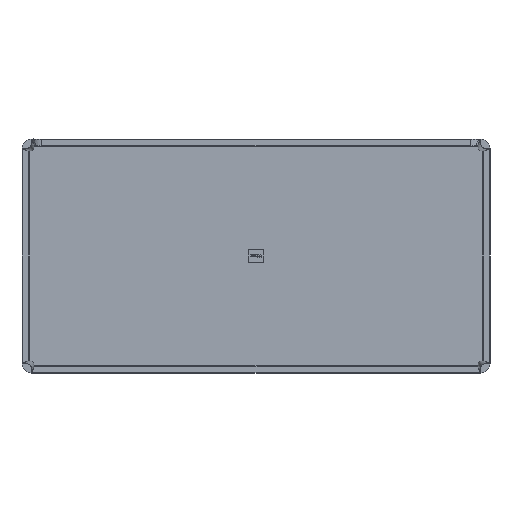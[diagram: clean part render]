
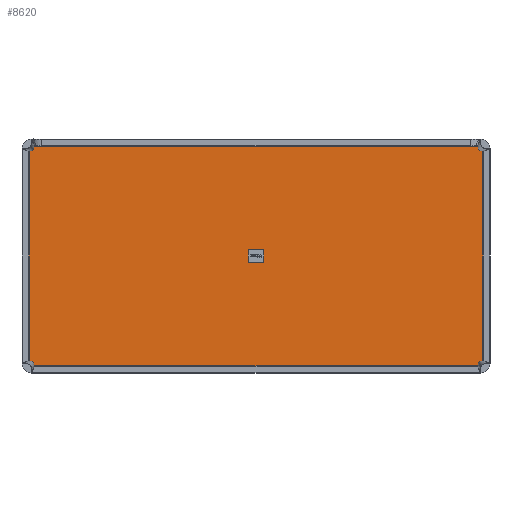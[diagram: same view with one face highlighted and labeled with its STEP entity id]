
A CAD part, front view. The second image highlights one B-rep face of the part: STEP entity #8620.
In plain terms, the highlighted planar face has unit normal (0, -1, 0).
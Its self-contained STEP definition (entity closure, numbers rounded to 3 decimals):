
#79 = ORIENTED_EDGE ( 'NONE', *, *, #7432, .T. ) ;
#269 = VERTEX_POINT ( 'NONE', #8766 ) ;
#335 = CARTESIAN_POINT ( 'NONE',  ( -582., 220.75, -269.467 ) ) ;
#394 = EDGE_CURVE ( 'NONE', #1871, #5790, #8077, .T. ) ;
#474 = VERTEX_POINT ( 'NONE', #7559 ) ;
#510 = B_SPLINE_CURVE_WITH_KNOTS ( 'NONE', 3,
 ( #985, #7351, #3449, #1039 ),
 .UNSPECIFIED., .F., .F.,
 ( 4, 4 ),
 ( 0.253, 0.747 ),
 .UNSPECIFIED. ) ;
#535 = CARTESIAN_POINT ( 'NONE',  ( -17.25, 220.75, -13.25 ) ) ;
#554 = CARTESIAN_POINT ( 'NONE',  ( 17.25, 220.75, -13.25 ) ) ;
#632 = AXIS2_PLACEMENT_3D ( 'NONE', #3969, #2377, #7149 ) ;
#676 = EDGE_CURVE ( 'NONE', #5790, #1641, #510, .T. ) ;
#706 = EDGE_CURVE ( 'NONE', #7155, #1171, #9826, .T. ) ;
#849 = PLANE ( 'NONE',  #1300 ) ;
#985 = CARTESIAN_POINT ( 'NONE',  ( -582., 220.75, -269.467 ) ) ;
#1036 = VERTEX_POINT ( 'NONE', #1693 ) ;
#1039 = CARTESIAN_POINT ( 'NONE',  ( -569.467, 220.75, -282. ) ) ;
#1093 = ORIENTED_EDGE ( 'NONE', *, *, #6794, .F. ) ;
#1171 = VERTEX_POINT ( 'NONE', #5016 ) ;
#1186 = DIRECTION ( 'NONE',  ( 0., 0., 1. ) ) ;
#1243 = VERTEX_POINT ( 'NONE', #2192 ) ;
#1288 = ORIENTED_EDGE ( 'NONE', *, *, #1720, .F. ) ;
#1300 = AXIS2_PLACEMENT_3D ( 'NONE', #5709, #2530, #8843 ) ;
#1328 = DIRECTION ( 'NONE',  ( -1., 0., 0. ) ) ;
#1401 = EDGE_CURVE ( 'NONE', #6914, #4941, #1625, .T. ) ;
#1504 = CARTESIAN_POINT ( 'NONE',  ( -568.969, 220.75, 271.967 ) ) ;
#1623 = CIRCLE ( 'NONE', #632, 2.75 ) ;
#1625 = LINE ( 'NONE', #3880, #7668 ) ;
#1641 = VERTEX_POINT ( 'NONE', #2002 ) ;
#1659 = CARTESIAN_POINT ( 'NONE',  ( -17.25, 220.75, -16. ) ) ;
#1685 = EDGE_CURVE ( 'NONE', #1171, #269, #3580, .T. ) ;
#1693 = CARTESIAN_POINT ( 'NONE',  ( 582., 220.75, -269.467 ) ) ;
#1720 = EDGE_CURVE ( 'NONE', #7241, #6178, #5385, .T. ) ;
#1802 = CARTESIAN_POINT ( 'NONE',  ( 17.25, 220.75, -16. ) ) ;
#1847 = ORIENTED_EDGE ( 'NONE', *, *, #1685, .F. ) ;
#1856 = CARTESIAN_POINT ( 'NONE',  ( 20., 220.75, -13.25 ) ) ;
#1871 = VERTEX_POINT ( 'NONE', #4654 ) ;
#1920 = B_SPLINE_CURVE_WITH_KNOTS ( 'NONE', 3,
 ( #7477, #2610, #9016, #3480 ),
 .UNSPECIFIED., .F., .F.,
 ( 4, 4 ),
 ( 0.253, 0.707 ),
 .UNSPECIFIED. ) ;
#1993 = EDGE_CURVE ( 'NONE', #1036, #5151, #2323, .T. ) ;
#2002 = CARTESIAN_POINT ( 'NONE',  ( -569.467, 220.75, -282. ) ) ;
#2028 = DIRECTION ( 'NONE',  ( 0., -1., 0. ) ) ;
#2144 = VECTOR ( 'NONE', #4973, 1000. ) ;
#2192 = CARTESIAN_POINT ( 'NONE',  ( -20., 220.75, -13.25 ) ) ;
#2266 = CARTESIAN_POINT ( 'NONE',  ( -582., 220.75, 269.467 ) ) ;
#2302 = VERTEX_POINT ( 'NONE', #3650 ) ;
#2323 = B_SPLINE_CURVE_WITH_KNOTS ( 'NONE', 3,
 ( #7711, #9098, #9917, #3709 ),
 .UNSPECIFIED., .F., .F.,
 ( 4, 4 ),
 ( 0.253, 0.747 ),
 .UNSPECIFIED. ) ;
#2377 = DIRECTION ( 'NONE',  ( 0., -1., 0. ) ) ;
#2530 = DIRECTION ( 'NONE',  ( 0., -1., 0. ) ) ;
#2565 = B_SPLINE_CURVE_WITH_KNOTS ( 'NONE', 3,
 ( #2266, #8582, #1504, #7804 ),
 .UNSPECIFIED., .F., .F.,
 ( 4, 4 ),
 ( 0.253, 0.707 ),
 .UNSPECIFIED. ) ;
#2579 = DIRECTION ( 'NONE',  ( 0., 0., 1. ) ) ;
#2610 = CARTESIAN_POINT ( 'NONE',  ( 573.432, 220.75, 268.305 ) ) ;
#2624 = ORIENTED_EDGE ( 'NONE', *, *, #3928, .T. ) ;
#2664 = ORIENTED_EDGE ( 'NONE', *, *, #394, .T. ) ;
#2816 = ORIENTED_EDGE ( 'NONE', *, *, #8617, .F. ) ;
#2854 = VERTEX_POINT ( 'NONE', #1659 ) ;
#2858 = DIRECTION ( 'NONE',  ( 0., -1., 0. ) ) ;
#2894 = CARTESIAN_POINT ( 'NONE',  ( 569.467, 220.75, -282. ) ) ;
#3233 = DIRECTION ( 'NONE',  ( 1., 0., 0. ) ) ;
#3365 = AXIS2_PLACEMENT_3D ( 'NONE', #535, #2028, #5100 ) ;
#3449 = CARTESIAN_POINT ( 'NONE',  ( -568.201, 220.75, -272.663 ) ) ;
#3480 = CARTESIAN_POINT ( 'NONE',  ( 569.271, 220.75, 279.793 ) ) ;
#3580 = LINE ( 'NONE', #5842, #4404 ) ;
#3650 = CARTESIAN_POINT ( 'NONE',  ( 582., 220.75, 269.467 ) ) ;
#3709 = CARTESIAN_POINT ( 'NONE',  ( 569.467, 220.75, -282. ) ) ;
#3880 = CARTESIAN_POINT ( 'NONE',  ( -1144.828, 220.75, 279.793 ) ) ;
#3928 = EDGE_CURVE ( 'NONE', #1641, #5151, #5932, .T. ) ;
#3969 = CARTESIAN_POINT ( 'NONE',  ( -17.25, 220.75, 13.25 ) ) ;
#4112 = DIRECTION ( 'NONE',  ( 0., -1., 0. ) ) ;
#4165 = EDGE_CURVE ( 'NONE', #1871, #4941, #2565, .T. ) ;
#4330 = DIRECTION ( 'NONE',  ( 0., 0., -1. ) ) ;
#4404 = VECTOR ( 'NONE', #1328, 1000. ) ;
#4479 = ORIENTED_EDGE ( 'NONE', *, *, #6362, .F. ) ;
#4605 = DIRECTION ( 'NONE',  ( -1., 0., 0. ) ) ;
#4619 = LINE ( 'NONE', #7744, #7313 ) ;
#4654 = CARTESIAN_POINT ( 'NONE',  ( -582., 220.75, 269.467 ) ) ;
#4941 = VERTEX_POINT ( 'NONE', #4962 ) ;
#4962 = CARTESIAN_POINT ( 'NONE',  ( -569.271, 220.75, 279.793 ) ) ;
#4973 = DIRECTION ( 'NONE',  ( 0., 0., 1. ) ) ;
#5016 = CARTESIAN_POINT ( 'NONE',  ( 17.25, 220.75, 16. ) ) ;
#5100 = DIRECTION ( 'NONE',  ( 0., 0., -1. ) ) ;
#5126 = CARTESIAN_POINT ( 'NONE',  ( 20., 220.75, 13.25 ) ) ;
#5151 = VERTEX_POINT ( 'NONE', #2894 ) ;
#5309 = DIRECTION ( 'NONE',  ( 1., 0., 0. ) ) ;
#5385 = CIRCLE ( 'NONE', #5715, 2.75 ) ;
#5630 = EDGE_CURVE ( 'NONE', #2302, #1036, #8084, .T. ) ;
#5709 = CARTESIAN_POINT ( 'NONE',  ( -1144.828, 220.75, 280.5 ) ) ;
#5715 = AXIS2_PLACEMENT_3D ( 'NONE', #554, #2858, #1186 ) ;
#5790 = VERTEX_POINT ( 'NONE', #335 ) ;
#5842 = CARTESIAN_POINT ( 'NONE',  ( 17.25, 220.75, 16. ) ) ;
#5932 = LINE ( 'NONE', #7622, #9433 ) ;
#6178 = VERTEX_POINT ( 'NONE', #6889 ) ;
#6337 = DIRECTION ( 'NONE',  ( 0., 0., -1. ) ) ;
#6362 = EDGE_CURVE ( 'NONE', #2854, #7241, #8828, .T. ) ;
#6429 = FACE_OUTER_BOUND ( 'NONE', #8240, .T. ) ;
#6481 = FACE_BOUND ( 'NONE', #6857, .T. ) ;
#6515 = VECTOR ( 'NONE', #6337, 1000. ) ;
#6794 = EDGE_CURVE ( 'NONE', #1243, #2854, #7779, .T. ) ;
#6857 = EDGE_LOOP ( 'NONE', ( #1093, #7456, #2816, #1847, #7059, #7362, #1288, #4479 ) ) ;
#6889 = CARTESIAN_POINT ( 'NONE',  ( 20., 220.75, -13.25 ) ) ;
#6914 = VERTEX_POINT ( 'NONE', #9403 ) ;
#7059 = ORIENTED_EDGE ( 'NONE', *, *, #706, .F. ) ;
#7108 = CARTESIAN_POINT ( 'NONE',  ( 582., 220.75, 280.5 ) ) ;
#7149 = DIRECTION ( 'NONE',  ( 0., 0., 1. ) ) ;
#7155 = VERTEX_POINT ( 'NONE', #5126 ) ;
#7241 = VERTEX_POINT ( 'NONE', #9800 ) ;
#7249 = EDGE_CURVE ( 'NONE', #6178, #7155, #8883, .T. ) ;
#7313 = VECTOR ( 'NONE', #9332, 1000. ) ;
#7351 = CARTESIAN_POINT ( 'NONE',  ( -572.663, 220.75, -268.201 ) ) ;
#7362 = ORIENTED_EDGE ( 'NONE', *, *, #7249, .F. ) ;
#7392 = ORIENTED_EDGE ( 'NONE', *, *, #676, .T. ) ;
#7432 = EDGE_CURVE ( 'NONE', #2302, #6914, #1920, .T. ) ;
#7456 = ORIENTED_EDGE ( 'NONE', *, *, #9523, .F. ) ;
#7477 = CARTESIAN_POINT ( 'NONE',  ( 582., 220.75, 269.467 ) ) ;
#7559 = CARTESIAN_POINT ( 'NONE',  ( -20., 220.75, 13.25 ) ) ;
#7622 = CARTESIAN_POINT ( 'NONE',  ( -1144.828, 220.75, -282. ) ) ;
#7668 = VECTOR ( 'NONE', #4605, 1000. ) ;
#7683 = VECTOR ( 'NONE', #4330, 1000. ) ;
#7711 = CARTESIAN_POINT ( 'NONE',  ( 582., 220.75, -269.467 ) ) ;
#7744 = CARTESIAN_POINT ( 'NONE',  ( -20., 220.75, -13.25 ) ) ;
#7779 = CIRCLE ( 'NONE', #3365, 2.75 ) ;
#7804 = CARTESIAN_POINT ( 'NONE',  ( -569.271, 220.75, 279.793 ) ) ;
#7989 = ORIENTED_EDGE ( 'NONE', *, *, #1993, .F. ) ;
#8012 = AXIS2_PLACEMENT_3D ( 'NONE', #9599, #4112, #2579 ) ;
#8077 = LINE ( 'NONE', #9769, #7683 ) ;
#8084 = LINE ( 'NONE', #7108, #6515 ) ;
#8240 = EDGE_LOOP ( 'NONE', ( #79, #9149, #9588, #2664, #7392, #2624, #7989, #9528 ) ) ;
#8582 = CARTESIAN_POINT ( 'NONE',  ( -573.432, 220.75, 268.305 ) ) ;
#8617 = EDGE_CURVE ( 'NONE', #269, #474, #1623, .T. ) ;
#8620 = ADVANCED_FACE ( 'NONE', ( #6429, #6481 ), #849, .T. ) ;
#8762 = VECTOR ( 'NONE', #3233, 1000. ) ;
#8766 = CARTESIAN_POINT ( 'NONE',  ( -17.25, 220.75, 16. ) ) ;
#8828 = LINE ( 'NONE', #1802, #8762 ) ;
#8843 = DIRECTION ( 'NONE',  ( 0., 0., -1. ) ) ;
#8883 = LINE ( 'NONE', #1856, #2144 ) ;
#9016 = CARTESIAN_POINT ( 'NONE',  ( 568.969, 220.75, 271.967 ) ) ;
#9098 = CARTESIAN_POINT ( 'NONE',  ( 572.663, 220.75, -268.201 ) ) ;
#9149 = ORIENTED_EDGE ( 'NONE', *, *, #1401, .T. ) ;
#9332 = DIRECTION ( 'NONE',  ( 0., 0., -1. ) ) ;
#9403 = CARTESIAN_POINT ( 'NONE',  ( 569.271, 220.75, 279.793 ) ) ;
#9433 = VECTOR ( 'NONE', #5309, 1000. ) ;
#9523 = EDGE_CURVE ( 'NONE', #474, #1243, #4619, .T. ) ;
#9528 = ORIENTED_EDGE ( 'NONE', *, *, #5630, .F. ) ;
#9588 = ORIENTED_EDGE ( 'NONE', *, *, #4165, .F. ) ;
#9599 = CARTESIAN_POINT ( 'NONE',  ( 17.25, 220.75, 13.25 ) ) ;
#9769 = CARTESIAN_POINT ( 'NONE',  ( -582., 220.75, 280.5 ) ) ;
#9800 = CARTESIAN_POINT ( 'NONE',  ( 17.25, 220.75, -16. ) ) ;
#9826 = CIRCLE ( 'NONE', #8012, 2.75 ) ;
#9917 = CARTESIAN_POINT ( 'NONE',  ( 568.201, 220.75, -272.663 ) ) ;
